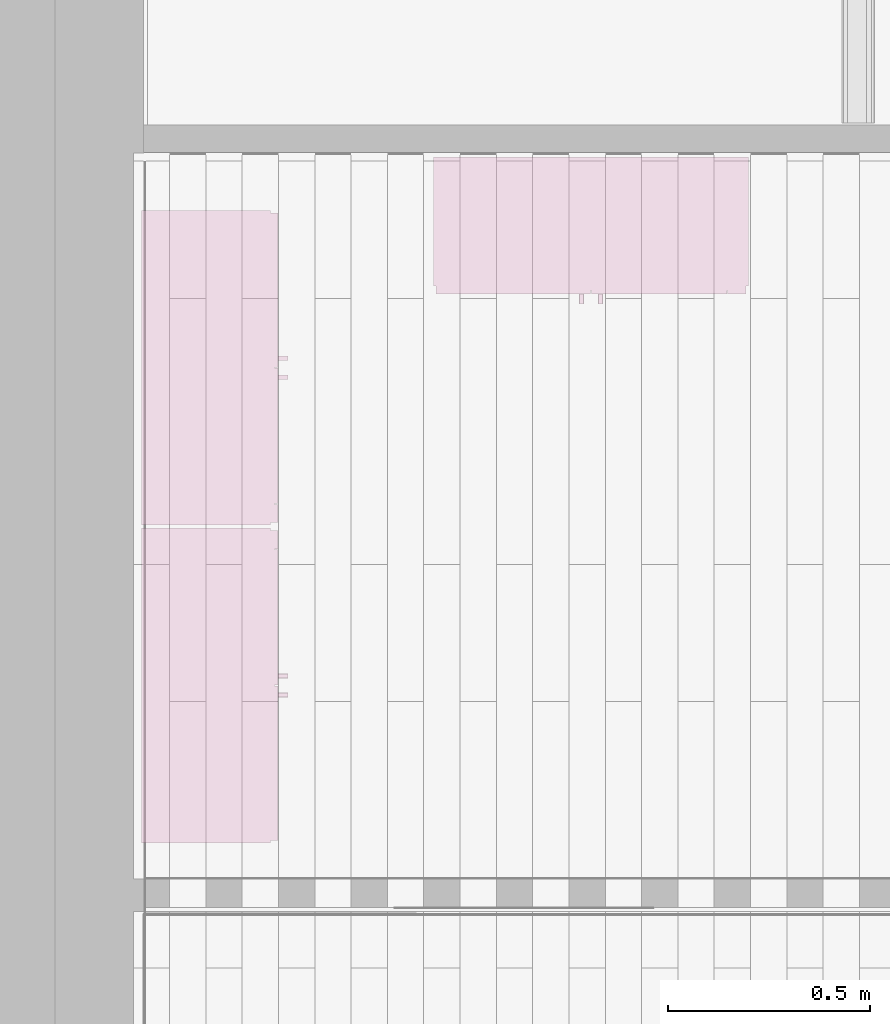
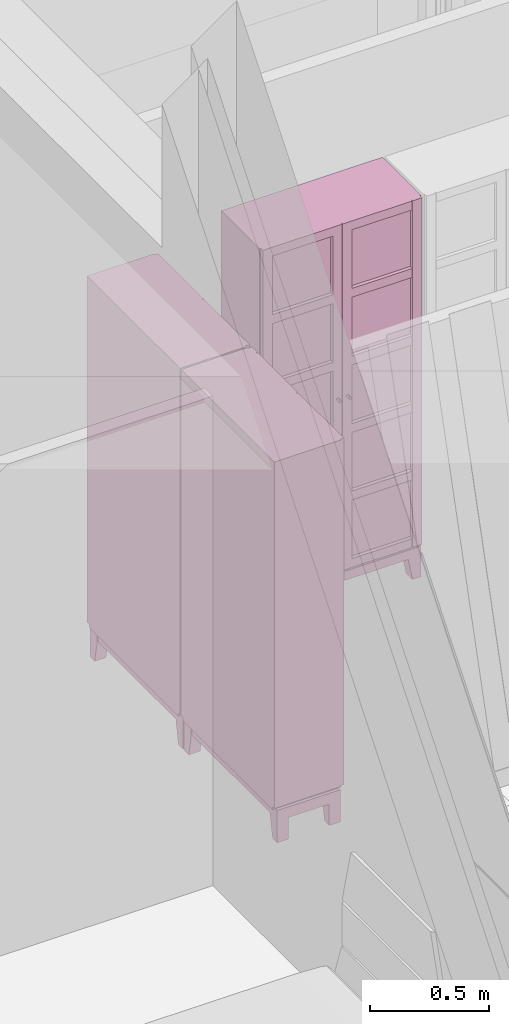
# One storey, part 58 of 61: 3 furnishings.
"""IFC2X3 building model written with IfcOpenShell, lengths in metres."""

from ifc_helpers import new_model, entity, si_unit, converted_unit, derived_unit, direction, frame, frame_2d, origin, origin_2d_with_axis, place, context, subcontext, project, spatial, polyline, rectangle, circle, outline, extrude, source, transform, mapped, material, material_list, type_object, type_shapes, element, save


model = new_model("IFC2X3")

# Units and contexts
model_context = context("Model", 3, precision=1e-05, world=origin(), true_north=direction((6.12303176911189e-17, 1.0)))
body_context = subcontext(model_context, "Body", "Model", "MODEL_VIEW")
ifc_project = project(units=[si_unit("LENGTHUNIT", "METRE"), si_unit("AREAUNIT", "SQUARE_METRE"), si_unit("VOLUMEUNIT", "CUBIC_METRE"), converted_unit("PLANEANGLEUNIT", "DEGREE", entity("IfcRatioMeasure", 0.0174532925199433), si_unit("PLANEANGLEUNIT", "RADIAN"), dimensions=[0, 0, 0, 0, 0, 0, 0]), si_unit("MASSUNIT", "GRAM", prefix="KILO"), derived_unit("MASSDENSITYUNIT", [(si_unit("MASSUNIT", "GRAM", prefix="KILO"), 1), (si_unit("LENGTHUNIT", "METRE"), -3)]), si_unit("TIMEUNIT", "SECOND"), si_unit("FREQUENCYUNIT", "HERTZ"), si_unit("THERMODYNAMICTEMPERATUREUNIT", "DEGREE_CELSIUS"), derived_unit("THERMALTRANSMITTANCEUNIT", [(si_unit("MASSUNIT", "GRAM", prefix="KILO"), 1), (si_unit("THERMODYNAMICTEMPERATUREUNIT", "KELVIN"), -1), (si_unit("TIMEUNIT", "SECOND"), -3)]), derived_unit("VOLUMETRICFLOWRATEUNIT", [(si_unit("LENGTHUNIT", "METRE"), 3), (si_unit("TIMEUNIT", "SECOND"), -1)]), si_unit("ELECTRICCURRENTUNIT", "AMPERE"), si_unit("ELECTRICVOLTAGEUNIT", "VOLT"), si_unit("POWERUNIT", "WATT"), si_unit("FORCEUNIT", "NEWTON", prefix="KILO"), si_unit("ILLUMINANCEUNIT", "LUX"), si_unit("LUMINOUSFLUXUNIT", "LUMEN"), si_unit("LUMINOUSINTENSITYUNIT", "CANDELA"), derived_unit("USERDEFINED", [(si_unit("MASSUNIT", "GRAM", prefix="KILO"), -1), (si_unit("LENGTHUNIT", "METRE"), -2), (si_unit("TIMEUNIT", "SECOND"), 3), (si_unit("LUMINOUSFLUXUNIT", "LUMEN"), 1)]), derived_unit("LINEARVELOCITYUNIT", [(si_unit("LENGTHUNIT", "METRE"), 1), (si_unit("TIMEUNIT", "SECOND"), -1)]), si_unit("PRESSUREUNIT", "PASCAL"), derived_unit("USERDEFINED", [(si_unit("LENGTHUNIT", "METRE"), -2), (si_unit("MASSUNIT", "GRAM", prefix="KILO"), 1), (si_unit("TIMEUNIT", "SECOND"), -2)])], contexts=[model_context])

# Site, building, storey
site_placement = place(None, origin())
site = spatial("IfcSite", under=ifc_project, at=site_placement, Name="Surface", CompositionType="ELEMENT")
building_placement = place(site_placement, origin())
building = spatial("IfcBuilding", under=site, at=building_placement, CompositionType="ELEMENT")
storey_placement = place(building_placement, frame((0.0, 0.0, 2.82)))
storey = spatial("IfcBuildingStorey", under=building, at=storey_placement, Name="ETAGE", CompositionType="ELEMENT", Elevation=2.82)

# Furnishings
ifc_material_1 = material(Name="Birch_horr")
ifc_material_2 = material(Name="Glass")
ifc_material_list_1 = material_list([ifc_material_1, ifc_material_2])
ifc_material_list_2 = material_list([ifc_material_1, ifc_material_2])
furniture_type_1 = type_object("IfcFurnitureType", Name="Allegro 7096", material=ifc_material_list_2)
shared_shape_1 = source(origin(), body_context, "Body", "SweptSolid", [
    extrude(rectangle(XDim=0.677999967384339, YDim=0.310000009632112, at=origin_2d_with_axis()), frame((0.0, 0.00500000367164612, 1.55400005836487)), (0.0, 0.0, 1.0), 0.0190000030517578),
    extrude(rectangle(XDim=0.677999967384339, YDim=0.310000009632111, at=origin_2d_with_axis()), frame((0.0, 0.00500000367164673, 1.20899996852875)), (0.0, 0.0, 1.0), 0.0190000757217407),
    extrude(rectangle(XDim=0.677999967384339, YDim=0.310000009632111, at=origin_2d_with_axis()), frame((0.0, 0.00500000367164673, 0.864000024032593)), (0.0, 0.0, 1.0), 0.0190000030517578),
    extrude(rectangle(XDim=0.677999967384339, YDim=0.310000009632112, at=origin_2d_with_axis()), frame((0.0, 0.00500000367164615, 0.519000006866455)), (0.0, 0.0, 1.0), 0.0190000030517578),
    extrude(outline(polyline([(-0.0320038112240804, -0.0780199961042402), (0.0279961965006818, -0.0780199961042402), (0.0279961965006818, -0.017920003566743), (0.00801522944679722, 0.0869799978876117), (-0.0320038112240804, 0.0869799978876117), (-0.0320038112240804, -0.0780199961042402)])), frame((-0.357996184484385, 0.090999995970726, 0.0869799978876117), z_axis=(0.0, 1.0, 0.0), x_axis=(1.0, 0.0, 0.0)), (0.0, 0.0, 1.0), 0.0550000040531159),
    extrude(outline(polyline([(-0.0780199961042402, -0.0320038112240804), (0.0869799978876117, -0.0320038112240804), (0.0869799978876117, 0.00801522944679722), (-0.017920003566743, 0.0279961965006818), (-0.0780199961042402, 0.0279961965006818), (-0.0780199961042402, -0.0320038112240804)])), frame((0.357996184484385, 0.090999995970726, 0.0869799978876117), z_axis=(0.0, 1.0, 0.0), x_axis=(0.0, 0.0, -1.0)), (0.0, 0.0, 1.0), 0.0550000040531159),
    extrude(outline(polyline([(-0.0320038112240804, -0.0780199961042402), (0.0279961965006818, -0.0780199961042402), (0.0279961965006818, -0.017920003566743), (0.00801522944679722, 0.0869799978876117), (-0.0320038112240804, 0.0869799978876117), (-0.0320038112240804, -0.0780199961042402)])), frame((-0.357996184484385, -0.160000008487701, 0.0869799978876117), z_axis=(0.0, 1.0, 0.0), x_axis=(1.0, 0.0, 0.0)), (0.0, 0.0, 1.0), 0.0550000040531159),
    extrude(outline(polyline([(-0.0780199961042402, -0.0320038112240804), (0.0869799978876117, -0.0320038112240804), (0.0869799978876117, 0.00801522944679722), (-0.017920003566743, 0.0279961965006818), (-0.0780199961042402, 0.0279961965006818), (-0.0780199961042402, -0.0320038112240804)])), frame((0.357996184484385, -0.160000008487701, 0.0869799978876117), z_axis=(0.0, 1.0, 0.0), x_axis=(0.0, 0.0, -1.0)), (0.0, 0.0, 1.0), 0.0550000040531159),
    extrude(rectangle(XDim=0.196000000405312, YDim=0.0299999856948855, at=frame_2d((-6.93889390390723e-18, 0.0), x_axis=(1.0, 0.0))), frame((0.375000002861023, -0.00700000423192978, 0.109999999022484), z_axis=(0.0, 0.0, 1.0), x_axis=(0.0, -1.0, 0.0)), (0.0, 0.0, 1.0), 0.054999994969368),
    extrude(rectangle(XDim=0.0299999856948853, YDim=0.196000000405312, at=origin_2d_with_axis()), frame((-0.375000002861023, -0.00700000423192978, 0.109999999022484), z_axis=(0.0, 0.0, 1.0), x_axis=(-1.0, 0.0, 0.0)), (0.0, 0.0, 1.0), 0.054999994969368),
    extrude(rectangle(XDim=0.659999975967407, YDim=0.03000001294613, at=origin_2d_with_axis()), frame((0.0, -0.145000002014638, 0.109999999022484), z_axis=(0.0, 0.0, 1.0), x_axis=(-1.0, 0.0, 0.0)), (0.0, 0.0, 1.0), 0.054999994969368),
    extrude(rectangle(XDim=0.659999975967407, YDim=0.0299999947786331, at=origin_2d_with_axis()), frame((0.0, 0.125999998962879, 0.109999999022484), z_axis=(0.0, 0.0, 1.0), x_axis=(-1.0, 0.0, 0.0)), (0.0, 0.0, 1.0), 0.054999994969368),
    extrude(rectangle(XDim=0.000999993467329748, YDim=0.679999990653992, at=frame_2d((1.69135538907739e-17, 0.0), x_axis=(1.0, 0.0))), frame((0.0, -0.160500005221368, 0.224000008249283), z_axis=(0.0, 0.0, 1.0), x_axis=(0.0, 1.0, 0.0)), (0.0, 0.0, 1.0), 1.68359997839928),
    extrude(rectangle(XDim=0.741999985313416, YDim=0.320000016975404, at=frame_2d((0.0, -1.38777878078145e-17), x_axis=(1.0, 0.0))), frame((0.0, 0.0, 1.93100001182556)), (0.0, 0.0, 1.0), 0.00900003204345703),
    extrude(rectangle(XDim=0.741999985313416, YDim=0.320000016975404, at=frame_2d((0.0, -1.38777878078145e-17), x_axis=(1.0, 0.0))), frame((0.0, 0.0, 0.18000000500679)), (0.0, 0.0, 1.0), 0.0190000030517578),
    extrude(rectangle(XDim=0.292999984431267, YDim=0.0189999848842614, at=frame_2d((-1.38777878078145e-17, 0.0), x_axis=(1.0, 0.0))), frame((0.190499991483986, -0.169500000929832, 0.18000000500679), z_axis=(0.0, 0.0, 1.0), x_axis=(-1.0, 0.0, 0.0)), (0.0, 0.0, 1.0), 0.0449999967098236),
    extrude(rectangle(XDim=0.292999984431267, YDim=0.0189999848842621, at=frame_2d((-1.38777878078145e-17, 1.73472347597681e-17), x_axis=(1.0, 0.0))), frame((0.190499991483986, -0.169500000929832, 0.525000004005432), z_axis=(0.0, 0.0, 1.0), x_axis=(-1.0, 0.0, 0.0)), (0.0, 0.0, 1.0), 0.0449999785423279),
    extrude(rectangle(XDim=0.292999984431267, YDim=0.0189999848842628, at=frame_2d((-1.38777878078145e-17, 1.73472347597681e-17), x_axis=(1.0, 0.0))), frame((0.190499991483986, -0.169500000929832, 0.87000002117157), z_axis=(0.0, 0.0, 1.0), x_axis=(-1.0, 0.0, 0.0)), (0.0, 0.0, 1.0), 0.0450000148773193),
    extrude(rectangle(XDim=0.292999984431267, YDim=0.0189999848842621, at=frame_2d((-1.38777878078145e-17, 1.73472347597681e-17), x_axis=(1.0, 0.0))), frame((0.190499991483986, -0.169500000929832, 1.21499996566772), z_axis=(0.0, 0.0, 1.0), x_axis=(-1.0, 0.0, 0.0)), (0.0, 0.0, 1.0), 0.0450000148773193),
    extrude(rectangle(XDim=0.292999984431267, YDim=0.0189999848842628, at=frame_2d((-1.38777878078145e-17, 1.73472347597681e-17), x_axis=(1.0, 0.0))), frame((0.190499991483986, -0.169500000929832, 1.55999998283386), z_axis=(0.0, 0.0, 1.0), x_axis=(-1.0, 0.0, 0.0)), (0.0, 0.0, 1.0), 0.0450000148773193),
    extrude(rectangle(XDim=0.292999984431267, YDim=0.0189999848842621, at=frame_2d((-1.38777878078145e-17, 0.0), x_axis=(1.0, 0.0))), frame((0.190499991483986, -0.169500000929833, 1.905), z_axis=(0.0, 0.0, 1.0), x_axis=(-1.0, 0.0, 0.0)), (0.0, 0.0, 1.0), 0.0450000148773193),
    extrude(rectangle(XDim=0.292999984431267, YDim=0.0189999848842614, at=frame_2d((1.38777878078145e-17, 0.0), x_axis=(1.0, 0.0))), frame((-0.192499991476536, -0.169500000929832, 0.18000000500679)), (0.0, 0.0, 1.0), 0.0449999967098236),
    extrude(rectangle(XDim=0.292999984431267, YDim=0.0189999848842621, at=frame_2d((1.38777878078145e-17, 0.0), x_axis=(1.0, 0.0))), frame((-0.192499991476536, -0.169500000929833, 1.905)), (0.0, 0.0, 1.0), 0.0450000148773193),
    extrude(rectangle(XDim=0.292999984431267, YDim=0.0189999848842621, at=frame_2d((1.38777878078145e-17, -1.73472347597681e-17), x_axis=(1.0, 0.0))), frame((-0.192499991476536, -0.169500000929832, 0.525000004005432)), (0.0, 0.0, 1.0), 0.0449999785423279),
    extrude(rectangle(XDim=0.292999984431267, YDim=0.0189999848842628, at=frame_2d((1.38777878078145e-17, -1.73472347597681e-17), x_axis=(1.0, 0.0))), frame((-0.192499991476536, -0.169500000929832, 0.87000002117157)), (0.0, 0.0, 1.0), 0.0450000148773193),
    extrude(rectangle(XDim=0.292999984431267, YDim=0.0189999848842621, at=frame_2d((1.38777878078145e-17, -1.73472347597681e-17), x_axis=(1.0, 0.0))), frame((-0.192499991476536, -0.169500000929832, 1.21499996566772)), (0.0, 0.0, 1.0), 0.0450000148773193),
    extrude(rectangle(XDim=0.292999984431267, YDim=0.0189999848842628, at=frame_2d((1.38777878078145e-17, -1.73472347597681e-17), x_axis=(1.0, 0.0))), frame((-0.192499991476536, -0.169500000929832, 1.55999998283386)), (0.0, 0.0, 1.0), 0.0450000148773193),
    extrude(rectangle(XDim=0.0450000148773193, YDim=0.0189999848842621, at=origin_2d_with_axis()), frame((0.361499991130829, -0.169500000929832, 0.18000000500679)), (0.0, 0.0, 1.0), 1.77000000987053),
    extrude(rectangle(XDim=0.0449999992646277, YDim=0.0189999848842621, at=origin_2d_with_axis()), frame((0.0234999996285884, -0.169500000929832, 0.18000000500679), z_axis=(0.0, 0.0, 1.0), x_axis=(-1.0, 0.0, 0.0)), (0.0, 0.0, 1.0), 1.77000000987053),
    extrude(rectangle(XDim=0.0189999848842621, YDim=0.0450000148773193, at=origin_2d_with_axis()), frame((-0.361499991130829, -0.169500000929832, 0.18000000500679), z_axis=(0.0, 0.0, 1.0), x_axis=(0.0, 1.0, 0.0)), (0.0, 0.0, 1.0), 1.77000000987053),
    extrude(rectangle(XDim=0.0449999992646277, YDim=0.0189999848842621, at=origin_2d_with_axis()), frame((-0.0234999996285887, -0.169500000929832, 0.18000000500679), z_axis=(0.0, 0.0, 1.0), x_axis=(-1.0, 0.0, 0.0)), (0.0, 0.0, 1.0), 1.77000000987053),
    extrude(circle(Radius=0.006, at=origin_2d_with_axis()), frame((0.0235209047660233, -0.203999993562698, 1.06501550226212), z_axis=(0.0, 1.0, 0.0), x_axis=(-1.0, 0.0, 0.0)), (0.0, 0.0, 1.0), 0.0250000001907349),
    extrude(circle(Radius=0.006, at=origin_2d_with_axis()), frame((-0.0235209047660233, -0.203999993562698, 1.06501550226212), z_axis=(0.0, 1.0, 0.0), x_axis=(1.0, 0.0, 0.0)), (0.0, 0.0, 1.0), 0.0250000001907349),
    extrude(rectangle(XDim=0.741999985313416, YDim=0.00500000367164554, at=origin_2d_with_axis()), frame((0.0, 0.157500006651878, 0.189999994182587)), (0.0, 0.0, 1.0), 1.75000004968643),
    extrude(rectangle(XDim=0.330000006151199, YDim=0.750000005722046, at=origin_2d_with_axis()), frame((0.0, -0.00499999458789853, 0.164999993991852), z_axis=(0.0, 0.0, 1.0), x_axis=(0.0, 1.0, 0.0)), (0.0, 0.0, 1.0), 0.0150000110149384),
    extrude(rectangle(XDim=0.330000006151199, YDim=0.741999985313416, at=origin_2d_with_axis()), frame((0.0, -0.00499999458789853, 1.94000004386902), z_axis=(0.0, 0.0, 1.0), x_axis=(0.0, 1.0, 0.0)), (0.0, 0.0, 1.0), 0.00999997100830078),
    extrude(rectangle(XDim=0.320000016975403, YDim=0.0190000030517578, at=origin_2d_with_axis()), frame((0.380499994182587, 0.0, 0.18000000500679), z_axis=(0.0, 0.0, 1.0), x_axis=(0.0, -1.0, 0.0)), (0.0, 0.0, 1.0), 1.77000000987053),
    extrude(rectangle(XDim=0.0190000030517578, YDim=0.320000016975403, at=origin_2d_with_axis()), frame((-0.380499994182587, 0.0, 0.18000000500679), z_axis=(0.0, 0.0, 1.0), x_axis=(-1.0, 0.0, 0.0)), (0.0, 0.0, 1.0), 1.77000000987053),
])
type_shapes(furniture_type_1, [shared_shape_1])
furnishing_1_placement = place(storey_placement, frame((84.0810898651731, 85.2875239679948, 0.0), z_axis=(0.0, 0.0, 1.0), x_axis=(0.0, 1.0, 0.0)))
element("IfcFurnishingElement", 1, at=furnishing_1_placement, inside=storey, type_object=furniture_type_1, material=ifc_material_list_1, Name="Allegro 7096:Allegro 7096", ObjectType="Allegro 7096:Allegro 7096", context=body_context, shape_type="MappedRepresentation", body=[
    mapped(shared_shape_1, transform((0.0, 0.0, 0.0), scale=1.0)),
])
ifc_material_list_3 = material_list([ifc_material_1, ifc_material_2])
furnishing_2_placement = place(storey_placement, frame((85.0357773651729, 86.4375239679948, 0.0)))
element("IfcFurnishingElement", 2, at=furnishing_2_placement, inside=storey, type_object=furniture_type_1, material=ifc_material_list_3, Name="Allegro 7096:Allegro 7096", ObjectType="Allegro 7096:Allegro 7096", context=body_context, shape_type="MappedRepresentation", body=[
    mapped(shared_shape_1, transform((0.0, 0.0, 0.0), scale=1.0)),
])
ifc_material_list_4 = material_list([ifc_material_1, ifc_material_2])
ifc_material_list_5 = material_list([ifc_material_1, ifc_material_2])
furniture_type_2 = type_object("IfcFurnitureType", Name="Allegro 7096", material=ifc_material_list_5)
shared_shape_2 = source(origin(), body_context, "Body", "SweptSolid", [
    extrude(rectangle(XDim=0.310000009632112, YDim=0.677999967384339, at=frame_2d((0.0, 2.77555756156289e-17), x_axis=(1.0, 0.0))), frame((0.0, -0.00500000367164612, 1.55400005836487), z_axis=(0.0, 0.0, 1.0), x_axis=(0.0, -1.0, 0.0)), (0.0, 0.0, 1.0), 0.0190000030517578),
    extrude(rectangle(XDim=0.310000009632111, YDim=0.677999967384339, at=frame_2d((0.0, 2.77555756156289e-17), x_axis=(1.0, 0.0))), frame((0.0, -0.00500000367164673, 1.20899996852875), z_axis=(0.0, 0.0, 1.0), x_axis=(0.0, -1.0, 0.0)), (0.0, 0.0, 1.0), 0.0190000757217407),
    extrude(rectangle(XDim=0.310000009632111, YDim=0.677999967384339, at=frame_2d((0.0, 2.77555756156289e-17), x_axis=(1.0, 0.0))), frame((0.0, -0.00500000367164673, 0.864000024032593), z_axis=(0.0, 0.0, 1.0), x_axis=(0.0, -1.0, 0.0)), (0.0, 0.0, 1.0), 0.0190000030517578),
    extrude(rectangle(XDim=0.310000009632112, YDim=0.677999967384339, at=frame_2d((0.0, 2.77555756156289e-17), x_axis=(1.0, 0.0))), frame((0.0, -0.00500000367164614, 0.519000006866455), z_axis=(0.0, 0.0, 1.0), x_axis=(0.0, -1.0, 0.0)), (0.0, 0.0, 1.0), 0.0190000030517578),
    extrude(outline(polyline([(-0.0320038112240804, -0.0780199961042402), (0.0279961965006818, -0.0780199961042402), (0.0279961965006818, -0.017920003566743), (0.00801522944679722, 0.0869799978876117), (-0.0320038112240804, 0.0869799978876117), (-0.0320038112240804, -0.0780199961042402)])), frame((-0.357996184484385, -0.146000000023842, 0.0869799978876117), z_axis=(0.0, 1.0, 0.0), x_axis=(1.0, 0.0, 0.0)), (0.0, 0.0, 1.0), 0.0550000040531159),
    extrude(outline(polyline([(-0.0780199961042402, -0.0320038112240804), (0.0869799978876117, -0.0320038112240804), (0.0869799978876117, 0.00801522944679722), (-0.017920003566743, 0.0279961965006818), (-0.0780199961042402, 0.0279961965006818), (-0.0780199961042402, -0.0320038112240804)])), frame((0.357996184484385, -0.146000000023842, 0.0869799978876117), z_axis=(0.0, 1.0, 0.0), x_axis=(0.0, 0.0, -1.0)), (0.0, 0.0, 1.0), 0.0550000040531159),
    extrude(outline(polyline([(-0.0320038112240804, -0.0780199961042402), (0.0279961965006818, -0.0780199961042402), (0.0279961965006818, -0.017920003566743), (0.00801522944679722, 0.0869799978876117), (-0.0320038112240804, 0.0869799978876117), (-0.0320038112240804, -0.0780199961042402)])), frame((-0.357996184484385, 0.105000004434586, 0.0869799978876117), z_axis=(0.0, 1.0, 0.0), x_axis=(1.0, 0.0, 0.0)), (0.0, 0.0, 1.0), 0.0550000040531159),
    extrude(outline(polyline([(-0.0780199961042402, -0.0320038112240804), (0.0869799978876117, -0.0320038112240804), (0.0869799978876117, 0.00801522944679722), (-0.017920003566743, 0.0279961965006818), (-0.0780199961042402, 0.0279961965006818), (-0.0780199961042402, -0.0320038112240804)])), frame((0.357996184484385, 0.105000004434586, 0.0869799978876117), z_axis=(0.0, 1.0, 0.0), x_axis=(0.0, 0.0, -1.0)), (0.0, 0.0, 1.0), 0.0550000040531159),
    extrude(rectangle(XDim=0.0299999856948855, YDim=0.196000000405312, at=origin_2d_with_axis()), frame((0.375000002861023, 0.00700000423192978, 0.109999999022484)), (0.0, 0.0, 1.0), 0.054999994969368),
    extrude(rectangle(XDim=0.196000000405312, YDim=0.0299999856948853, at=origin_2d_with_axis()), frame((-0.375000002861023, 0.00700000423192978, 0.109999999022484), z_axis=(0.0, 0.0, 1.0), x_axis=(0.0, 1.0, 0.0)), (0.0, 0.0, 1.0), 0.054999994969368),
    extrude(rectangle(XDim=0.03000001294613, YDim=0.659999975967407, at=origin_2d_with_axis()), frame((0.0, 0.145000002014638, 0.109999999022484), z_axis=(0.0, 0.0, 1.0), x_axis=(0.0, 1.0, 0.0)), (0.0, 0.0, 1.0), 0.054999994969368),
    extrude(rectangle(XDim=0.0299999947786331, YDim=0.659999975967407, at=origin_2d_with_axis()), frame((0.0, -0.125999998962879, 0.109999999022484), z_axis=(0.0, 0.0, 1.0), x_axis=(0.0, 1.0, 0.0)), (0.0, 0.0, 1.0), 0.054999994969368),
    extrude(rectangle(XDim=0.679999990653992, YDim=0.000999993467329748, at=frame_2d((0.0, 1.69135538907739e-17), x_axis=(1.0, 0.0))), frame((0.0, 0.160500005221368, 0.224000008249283), z_axis=(0.0, 0.0, 1.0), x_axis=(-1.0, 0.0, 0.0)), (0.0, 0.0, 1.0), 1.68359997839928),
    extrude(rectangle(XDim=0.320000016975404, YDim=0.741999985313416, at=origin_2d_with_axis()), frame((0.0, 0.0, 1.93100001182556), z_axis=(0.0, 0.0, 1.0), x_axis=(0.0, -1.0, 0.0)), (0.0, 0.0, 1.0), 0.00900003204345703),
    extrude(rectangle(XDim=0.320000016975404, YDim=0.741999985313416, at=origin_2d_with_axis()), frame((0.0, 0.0, 0.18000000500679), z_axis=(0.0, 0.0, 1.0), x_axis=(0.0, -1.0, 0.0)), (0.0, 0.0, 1.0), 0.0190000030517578),
    extrude(rectangle(XDim=0.0189999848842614, YDim=0.292999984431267, at=frame_2d((0.0, -1.38777878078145e-17), x_axis=(1.0, 0.0))), frame((0.190499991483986, 0.169500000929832, 0.18000000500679), z_axis=(0.0, 0.0, 1.0), x_axis=(0.0, 1.0, 0.0)), (0.0, 0.0, 1.0), 0.0449999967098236),
    extrude(rectangle(XDim=0.0189999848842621, YDim=0.292999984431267, at=frame_2d((-1.64798730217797e-17, -1.38777878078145e-17), x_axis=(1.0, 0.0))), frame((0.190499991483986, 0.169500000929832, 0.525000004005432), z_axis=(0.0, 0.0, 1.0), x_axis=(0.0, 1.0, 0.0)), (0.0, 0.0, 1.0), 0.0449999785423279),
    extrude(rectangle(XDim=0.0189999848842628, YDim=0.292999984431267, at=frame_2d((-1.64798730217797e-17, -1.38777878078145e-17), x_axis=(1.0, 0.0))), frame((0.190499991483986, 0.169500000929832, 0.87000002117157), z_axis=(0.0, 0.0, 1.0), x_axis=(0.0, 1.0, 0.0)), (0.0, 0.0, 1.0), 0.0450000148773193),
    extrude(rectangle(XDim=0.0189999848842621, YDim=0.292999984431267, at=frame_2d((-1.64798730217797e-17, -1.38777878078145e-17), x_axis=(1.0, 0.0))), frame((0.190499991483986, 0.169500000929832, 1.21499996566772), z_axis=(0.0, 0.0, 1.0), x_axis=(0.0, 1.0, 0.0)), (0.0, 0.0, 1.0), 0.0450000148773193),
    extrude(rectangle(XDim=0.0189999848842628, YDim=0.292999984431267, at=frame_2d((-1.64798730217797e-17, -1.38777878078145e-17), x_axis=(1.0, 0.0))), frame((0.190499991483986, 0.169500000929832, 1.55999998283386), z_axis=(0.0, 0.0, 1.0), x_axis=(0.0, 1.0, 0.0)), (0.0, 0.0, 1.0), 0.0450000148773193),
    extrude(rectangle(XDim=0.0189999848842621, YDim=0.292999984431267, at=frame_2d((0.0, -1.38777878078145e-17), x_axis=(1.0, 0.0))), frame((0.190499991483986, 0.169500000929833, 1.905), z_axis=(0.0, 0.0, 1.0), x_axis=(0.0, 1.0, 0.0)), (0.0, 0.0, 1.0), 0.0450000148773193),
    extrude(rectangle(XDim=0.0189999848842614, YDim=0.292999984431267, at=frame_2d((0.0, 1.38777878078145e-17), x_axis=(1.0, 0.0))), frame((-0.192499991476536, 0.169500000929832, 0.18000000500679), z_axis=(0.0, 0.0, 1.0), x_axis=(0.0, -1.0, 0.0)), (0.0, 0.0, 1.0), 0.0449999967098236),
    extrude(rectangle(XDim=0.0189999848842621, YDim=0.292999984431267, at=frame_2d((0.0, 1.38777878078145e-17), x_axis=(1.0, 0.0))), frame((-0.192499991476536, 0.169500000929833, 1.905), z_axis=(0.0, 0.0, 1.0), x_axis=(0.0, -1.0, 0.0)), (0.0, 0.0, 1.0), 0.0450000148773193),
    extrude(rectangle(XDim=0.0189999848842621, YDim=0.292999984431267, at=frame_2d((1.64798730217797e-17, 1.38777878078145e-17), x_axis=(1.0, 0.0))), frame((-0.192499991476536, 0.169500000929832, 0.525000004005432), z_axis=(0.0, 0.0, 1.0), x_axis=(0.0, -1.0, 0.0)), (0.0, 0.0, 1.0), 0.0449999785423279),
    extrude(rectangle(XDim=0.0189999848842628, YDim=0.292999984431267, at=frame_2d((1.64798730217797e-17, 1.38777878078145e-17), x_axis=(1.0, 0.0))), frame((-0.192499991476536, 0.169500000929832, 0.87000002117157), z_axis=(0.0, 0.0, 1.0), x_axis=(0.0, -1.0, 0.0)), (0.0, 0.0, 1.0), 0.0450000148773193),
    extrude(rectangle(XDim=0.0189999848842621, YDim=0.292999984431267, at=frame_2d((1.64798730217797e-17, 1.38777878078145e-17), x_axis=(1.0, 0.0))), frame((-0.192499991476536, 0.169500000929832, 1.21499996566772), z_axis=(0.0, 0.0, 1.0), x_axis=(0.0, -1.0, 0.0)), (0.0, 0.0, 1.0), 0.0450000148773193),
    extrude(rectangle(XDim=0.0189999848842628, YDim=0.292999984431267, at=frame_2d((1.64798730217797e-17, 1.38777878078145e-17), x_axis=(1.0, 0.0))), frame((-0.192499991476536, 0.169500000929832, 1.55999998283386), z_axis=(0.0, 0.0, 1.0), x_axis=(0.0, -1.0, 0.0)), (0.0, 0.0, 1.0), 0.0450000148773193),
    extrude(rectangle(XDim=0.0189999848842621, YDim=0.0450000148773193, at=origin_2d_with_axis()), frame((0.361499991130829, 0.169500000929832, 0.18000000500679), z_axis=(0.0, 0.0, 1.0), x_axis=(0.0, -1.0, 0.0)), (0.0, 0.0, 1.0), 1.77000000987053),
    extrude(rectangle(XDim=0.0189999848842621, YDim=0.0449999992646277, at=origin_2d_with_axis()), frame((0.0234999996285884, 0.169500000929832, 0.18000000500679), z_axis=(0.0, 0.0, 1.0), x_axis=(0.0, 1.0, 0.0)), (0.0, 0.0, 1.0), 1.77000000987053),
    extrude(rectangle(XDim=0.0450000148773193, YDim=0.0189999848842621, at=origin_2d_with_axis()), frame((-0.361499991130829, 0.169500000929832, 0.18000000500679), z_axis=(0.0, 0.0, 1.0), x_axis=(-1.0, 0.0, 0.0)), (0.0, 0.0, 1.0), 1.77000000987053),
    extrude(rectangle(XDim=0.0189999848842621, YDim=0.0449999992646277, at=origin_2d_with_axis()), frame((-0.0234999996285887, 0.169500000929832, 0.18000000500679), z_axis=(0.0, 0.0, 1.0), x_axis=(0.0, 1.0, 0.0)), (0.0, 0.0, 1.0), 1.77000000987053),
    extrude(circle(Radius=0.006, at=origin_2d_with_axis()), frame((0.0235209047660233, 0.178999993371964, 1.06501550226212), z_axis=(0.0, 1.0, 0.0), x_axis=(-1.0, 0.0, 0.0)), (0.0, 0.0, 1.0), 0.0250000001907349),
    extrude(circle(Radius=0.006, at=origin_2d_with_axis()), frame((-0.0235209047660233, 0.178999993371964, 1.06501550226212), z_axis=(0.0, 1.0, 0.0), x_axis=(1.0, 0.0, 0.0)), (0.0, 0.0, 1.0), 0.0250000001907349),
    extrude(rectangle(XDim=0.00500000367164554, YDim=0.741999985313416, at=frame_2d((3.38271077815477e-17, 0.0), x_axis=(1.0, 0.0))), frame((0.0, -0.157500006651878, 0.189999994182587), z_axis=(0.0, 0.0, 1.0), x_axis=(0.0, -1.0, 0.0)), (0.0, 0.0, 1.0), 1.75000004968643),
    extrude(rectangle(XDim=0.750000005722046, YDim=0.330000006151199, at=origin_2d_with_axis()), frame((0.0, 0.00499999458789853, 0.164999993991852), z_axis=(0.0, 0.0, 1.0), x_axis=(-1.0, 0.0, 0.0)), (0.0, 0.0, 1.0), 0.0150000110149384),
    extrude(rectangle(XDim=0.741999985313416, YDim=0.330000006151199, at=origin_2d_with_axis()), frame((0.0, 0.00499999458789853, 1.94000004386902), z_axis=(0.0, 0.0, 1.0), x_axis=(-1.0, 0.0, 0.0)), (0.0, 0.0, 1.0), 0.00999997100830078),
    extrude(rectangle(XDim=0.0190000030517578, YDim=0.320000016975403, at=origin_2d_with_axis()), frame((0.380499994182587, 0.0, 0.18000000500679)), (0.0, 0.0, 1.0), 1.77000000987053),
    extrude(rectangle(XDim=0.320000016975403, YDim=0.0190000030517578, at=origin_2d_with_axis()), frame((-0.380499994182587, 0.0, 0.18000000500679), z_axis=(0.0, 0.0, 1.0), x_axis=(0.0, 1.0, 0.0)), (0.0, 0.0, 1.0), 1.77000000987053),
])
type_shapes(furniture_type_2, [shared_shape_2])
furnishing_3_placement = place(storey_placement, frame((84.0810898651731, 86.0755239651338, 0.0), z_axis=(0.0, 0.0, 1.0), x_axis=(0.0, -1.0, 0.0)))
element("IfcFurnishingElement", 3, at=furnishing_3_placement, inside=storey, type_object=furniture_type_2, material=ifc_material_list_4, Name="Allegro 7096:Allegro 7096", ObjectType="Allegro 7096:Allegro 7096", context=body_context, shape_type="MappedRepresentation", body=[
    mapped(shared_shape_2, transform((0.0, 0.0, 0.0), scale=1.0)),
])

save(model, "model.ifc")
